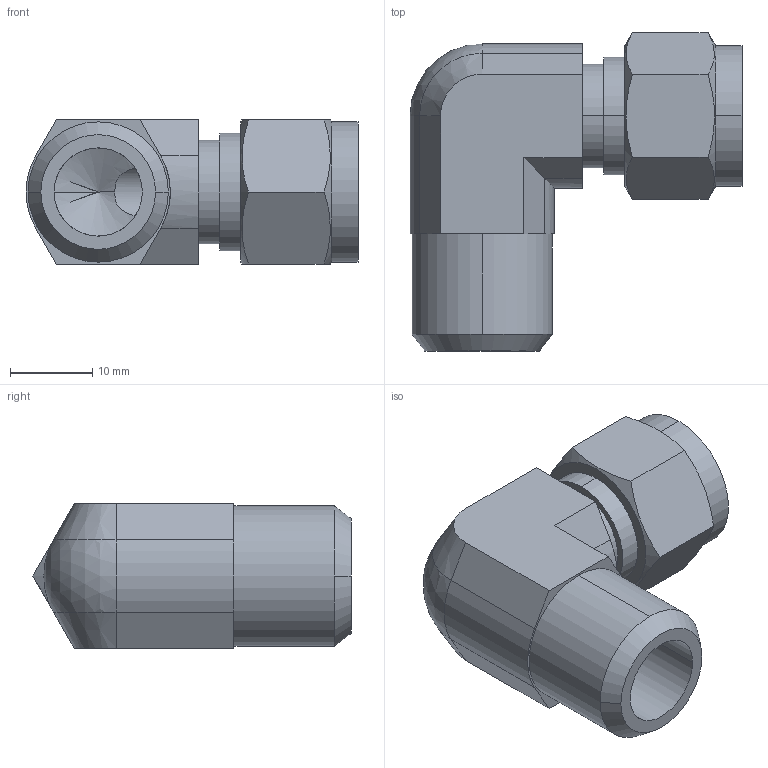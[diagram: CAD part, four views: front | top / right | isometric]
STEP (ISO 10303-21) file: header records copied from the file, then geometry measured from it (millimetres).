
FILE_DESCRIPTION (( 'STEP AP203' ), '1' );
FILE_NAME ('DLB 06-06 SS.STEP', '2009-09-08T06:39:45', ( ' ' ), ( '' ), 'SwSTEP 2.0', 'SolidWorks 2008', '' );
FILE_SCHEMA (( 'CONFIG_CONTROL_DESIGN' ));
Length unit declared in the file: millimetre
Products named in the file (1): DLB 06-06 SS
Bounding box: 40.25 x 38.58 x 17.5 mm (x, y, z)
Volume: 9662.4 mm3; surface area: 5677.8 mm2
Topology: 1 solids, 1 shells, 52 faces, 131 edges, 83 vertices
Faces by surface type: plane 23, cylinder 18, cone 10, sphere 1
Entity records: 1774 total; most frequent: CARTESIAN_POINT 473, ORIENTED_EDGE 254, DIRECTION 252, EDGE_CURVE 127, AXIS2_PLACEMENT_3D 95, VERTEX_POINT 82, VECTOR 62, LINE 62
